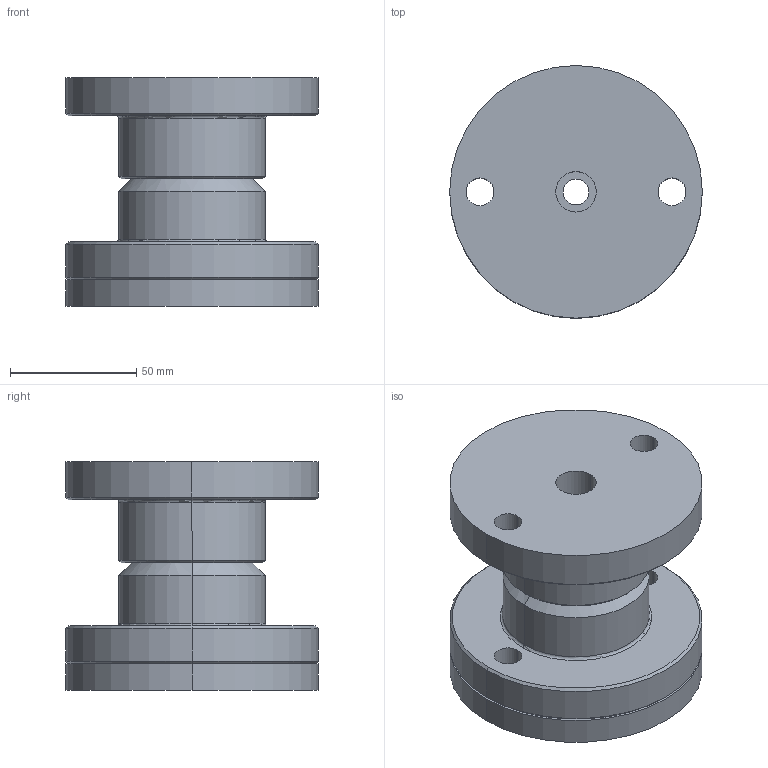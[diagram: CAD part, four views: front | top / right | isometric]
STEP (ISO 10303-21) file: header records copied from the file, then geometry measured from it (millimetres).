
FILE_DESCRIPTION(('CATIA V5 STEP Exchange'),'2;1');
FILE_NAME('C:\Users\Utente\Desktop\IO LAVORO\3D X SITO CF\X 3D SITO CF 27-09-2020\CFCCP\CFCCP10.stp','2020-10-27T19:55:35+00:00',('none'),('none'),'CATIA Version 5 Release 20 GA (IN-10)','CATIA V5 STEP AP203','none');
FILE_SCHEMA(('CONFIG_CONTROL_DESIGN'));
Length unit declared in the file: millimetre
Products named in the file (1): CFCCP10
Assembly tree (3 placements, depth 2):
  CFCCP10
    #58
    #1121
    #1772
Bounding box: 100 x 100 x 90.5 mm (x, y, z)
Volume: 422391.3 mm3; surface area: 74303.9 mm2
Topology: 3 solids, 3 shells, 80 faces, 180 edges, 106 vertices
Faces by surface type: cylinder 42, cone 26, plane 8, torus 4
Entity records: 2384 total; most frequent: CARTESIAN_POINT 506, ORIENTED_EDGE 352, DIRECTION 342, AXIS2_PLACEMENT_3D 188, EDGE_CURVE 176, EDGE_LOOP 106, VERTEX_POINT 106, CIRCLE 102
